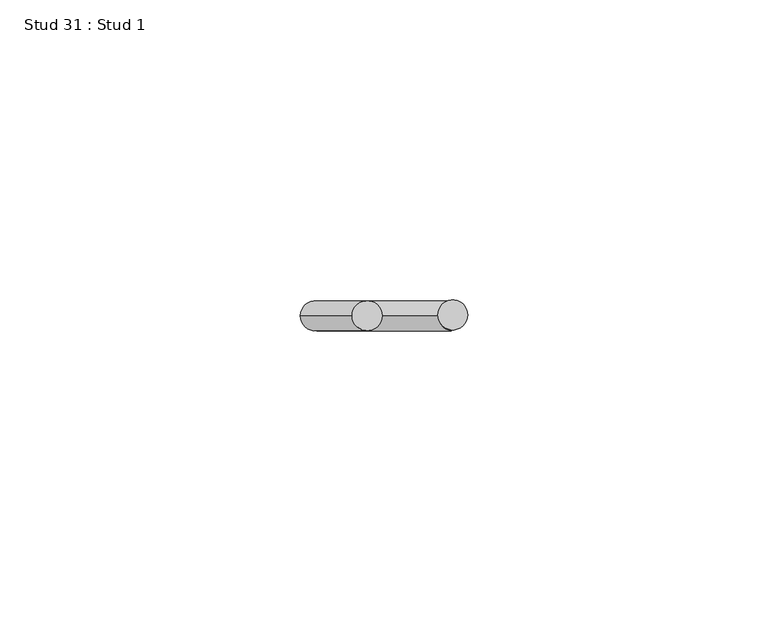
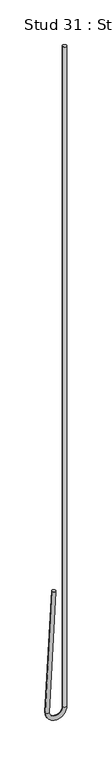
"""IFC4 building model written with IfcOpenShell, lengths in millimetres: proxy geometry, Stud 31 : Stud 1."""

from ifc_helpers import new_model, si_unit, point, frame, origin, place, context, project, spatial, circle_curve, ellipse_curve, trimmed, source, transform, mapped, element, save
from ifc_brep_helpers import plane_surface, cylinder_surface, revolved_surface, advanced_brep


def stud_31_stud_1_9c334b2f(model_context):
    return source(origin(), model_context, "Body", "AdvancedBrep", [
        advanced_brep(
        [(-14671.4532788, 886.5972731, 3640.800192), (-14666.4601311, 886.5972731, 3640.5385122), (-14680.0939451, 886.5972731, 3475.9264558), (-14675.1007975, 886.5972731, 3475.664776), (-14657.1920812, 886.5972731, 3475.7956159), (-14652.1920812, 886.5972731, 3475.7956159), (-14652.1920812, 886.5972731, 4390.1956159), (-14657.1920812, 886.5972731, 4390.1956159)],
        [
            (0, 1, circle_curve(frame((-14668.9567049, 886.5972731, 3640.6693521), z_axis=(0.05233595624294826, 0.0, 0.9986295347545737), x_axis=(0.9986295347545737, 0.0, -0.05233595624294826)), 2.5)),
            (1, 0, circle_curve(frame((-14668.9567049, 886.5972731, 3640.6693521), z_axis=(0.05233595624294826, 0.0, 0.9986295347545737), x_axis=(0.9986295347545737, 0.0, -0.05233595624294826)), 2.5)),
            (0, 2),
            (2, 3, circle_curve(frame((-14677.5973713, 886.5972731, 3475.7956159), z_axis=(0.05233595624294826, 0.0, 0.9986295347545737), x_axis=(0.9986295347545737, 0.0, -0.05233595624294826)), 2.5)),
            (3, 1),
            (3, 2, circle_curve(frame((-14677.5973713, 886.5972731, 3475.7956159), z_axis=(0.05233595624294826, 0.0, 0.9986295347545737), x_axis=(0.9986295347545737, 0.0, -0.05233595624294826)), 2.5)),
            (4, 3, circle_curve(frame((-14666.1447263, 886.5972731, 3475.7956159), z_axis=(0.0, 1.0, 0.0), x_axis=(-1.0, 0.0, 0.0)), 8.952645)),
            (2, 5, circle_curve(frame((-14666.1447263, 886.5972731, 3475.7956159), z_axis=(0.0, -1.0, 0.0), x_axis=(-1.0, 0.0, 0.0)), 13.952645)),
            (5, 4, circle_curve(frame((-14654.6920812, 886.5972731, 3475.7956159), z_axis=(0.0, 0.0, -1.0), x_axis=(-1.0, 0.0, 0.0)), 2.5)),
            (4, 5, circle_curve(frame((-14654.6920812, 886.5972731, 3475.7956159), z_axis=(0.0, 0.0, -1.0), x_axis=(-1.0, 0.0, 0.0)), 2.5)),
            (6, 7, circle_curve(frame((-14654.6920812, 886.5972731, 4390.1956159), z_axis=(0.0, 0.0, 1.0), x_axis=(-1.0, 0.0, 0.0)), 2.5)),
            (7, 6, circle_curve(frame((-14654.6920812, 886.5972731, 4390.1956159), z_axis=(0.0, 0.0, 1.0), x_axis=(-1.0, 0.0, 0.0)), 2.5)),
            (5, 6),
            (7, 4),
        ],
        [
            plane_surface(frame((-14668.9567049, 1480.3222731, 3640.6693521), z_axis=(0.05233595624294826, 0.0, 0.9986295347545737), x_axis=(0.0, -1.0, 0.0))),
            cylinder_surface(frame((-14668.9567049, 886.5972731, 3640.6693521), z_axis=(0.05233595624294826, 0.0, 0.9986295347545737), x_axis=(0.9986295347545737, 0.0, -0.05233595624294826)), 2.5),
            revolved_surface(trimmed(ellipse_curve(frame((-14677.5973713, 886.5972731, 3475.7956159), z_axis=(0.0, 0.0, 1.0), x_axis=(1.0, 0.0, 0.0)), 2.5, 2.5), [point((-14680.0973713, 886.5972731, 3475.7956159))], [point((-14675.0973713, 886.5972731, 3475.7956159))], True, "CARTESIAN"), (-14666.1447263, 1480.3222731, 3475.7956159), (0.0, -1.0, 0.0)),
            revolved_surface(trimmed(ellipse_curve(frame((-14677.5973713, 886.5972731, 3475.7956159), z_axis=(0.0, 0.0, 1.0), x_axis=(1.0, 0.0, 0.0)), 2.5, 2.5), [point((-14675.0973713, 886.5972731, 3475.7956159))], [point((-14680.0973713, 886.5972731, 3475.7956159))], True, "CARTESIAN"), (-14666.1447263, 1480.3222731, 3475.7956159), (0.0, -1.0, 0.0)),
            plane_surface(frame((-14654.6920812, 1480.3222731, 4390.1956159), z_axis=(0.0, 0.0, 1.0), x_axis=(0.0, -1.0, 0.0))),
            cylinder_surface(frame((-14654.6920812, 886.5972731, 3475.7956159), z_axis=(0.0, 0.0, -1.0), x_axis=(-1.0, 0.0, 0.0)), 2.5),
        ],
        [
            (0, [[1, 2]]),
            (1, [[-1, 3, 4, 5]]),
            (1, [[-2, -5, 6, -3]]),
            (2, [[7, -4, 8, 9]]),
            (3, [[-8, -6, -7, 10]]),
            (4, [[11, 12]]),
            (5, [[-9, 13, -12, 14]]),
            (5, [[-10, -14, -11, -13]]),
        ],
    ),
    ])


if __name__ == "__main__":
    model = new_model("IFC4")
    model_context = context("Model", 3, world=origin())
    ifc_project = project(units=[si_unit("LENGTHUNIT", "METRE", prefix="MILLI")], contexts=[model_context])
    site = spatial("IfcSite", under=ifc_project)
    building = spatial("IfcBuilding", under=site)
    placement = place(None, origin())
    stud_31_stud_1_shape = stud_31_stud_1_9c334b2f(model_context)
    element("IfcBuildingElementProxy", 1, Name="Stud 31 : Stud 1", ObjectType="Stud 31 : Stud 1", at=placement, inside=building, context=model_context, shape_type="MappedRepresentation", body=[
        mapped(stud_31_stud_1_shape, transform((0.0, 0.0, 0.0), x_axis=(1.0, 0.0, 0.0), y_axis=(0.0, 1.0, 0.0), z_axis=(0.0, 0.0, 1.0))),
    ])
    save(model, "model.ifc")
